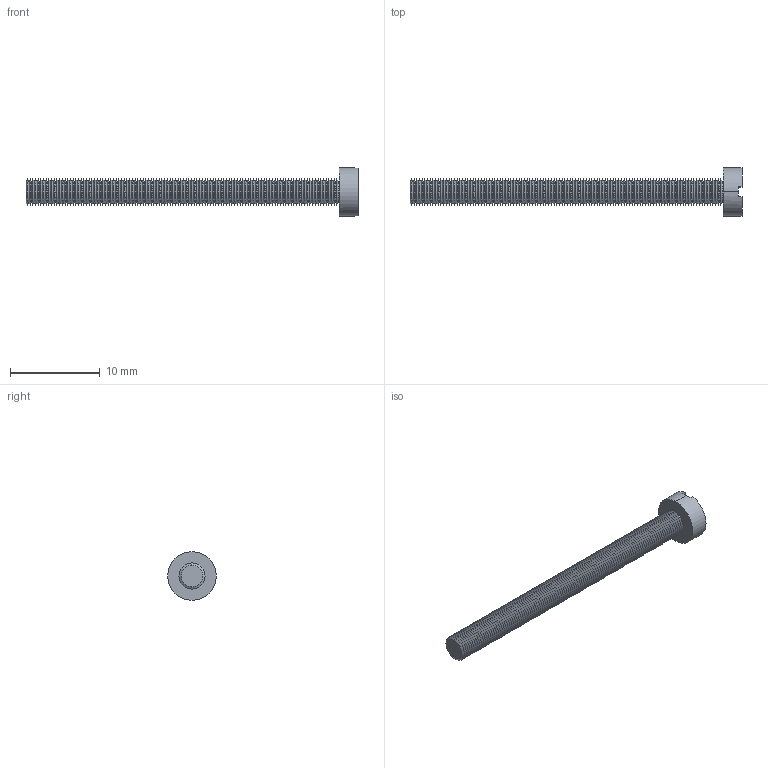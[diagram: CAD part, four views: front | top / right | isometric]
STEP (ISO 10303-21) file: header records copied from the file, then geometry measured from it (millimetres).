
FILE_DESCRIPTION (( 'STEP AP214' ), '1' );
FILE_NAME ('Cargol Metric PP10.STEP', '2017-07-19T09:03:50', ( 'aaa' ), ( '' ), 'SwSTEP 2.0', 'SolidWorks 2013', '' );
FILE_SCHEMA (( 'AUTOMOTIVE_DESIGN' ));
Length unit declared in the file: millimetre
Products named in the file (1): Cargol Metric PP10
Bounding box: 37 x 5.4 x 5.4 mm (x, y, z)
Volume: 238.7 mm3; surface area: 648.6 mm2
Topology: 1 solids, 1 shells, 475 faces, 952 edges, 480 vertices
Faces by surface type: cone 464, plane 7, cylinder 4
Entity records: 11977 total; most frequent: DIRECTION 2380, CARTESIAN_POINT 1908, ORIENTED_EDGE 1904, AXIS2_PLACEMENT_3D 952, EDGE_CURVE 952, VERTEX_POINT 480, VECTOR 476, EDGE_LOOP 476
